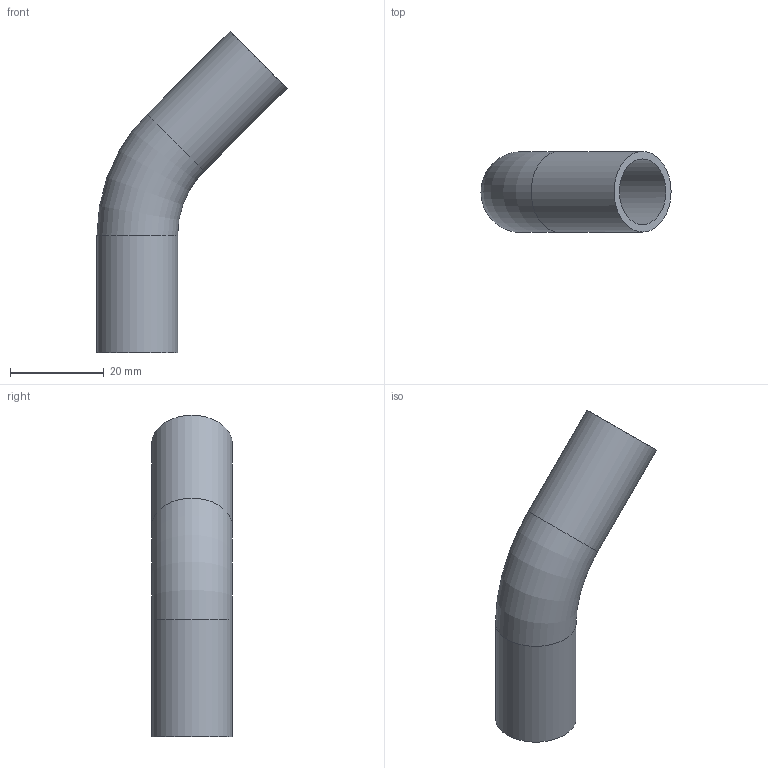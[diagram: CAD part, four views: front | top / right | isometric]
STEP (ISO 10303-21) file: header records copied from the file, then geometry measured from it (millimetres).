
FILE_DESCRIPTION(('Elbow 17,2x1,6_45 deg-Version 00'),'2;1');
FILE_NAME('E045_17,2x1,6_MR28_L36,6_00.stp','2013-09-04T12:24:44',(''),('DOCKWEILER AG'),'Autodesk Inventor 2012','Autodesk Inventor 2012','');
FILE_SCHEMA(('CONFIG_CONTROL_DESIGN'));
Length unit declared in the file: millimetre
Products named in the file (1): N0001_003_001
Bounding box: 40.56 x 17.2 x 68.56 mm (x, y, z)
Volume: 5645.4 mm3; surface area: 7213.6 mm2
Topology: 1 solids, 1 shells, 8 faces, 14 edges, 8 vertices
Faces by surface type: cylinder 4, torus 2, plane 2
Full cylindrical faces by diameter (mm): 14 x2, 17.2 x2
Entity records: 194 total; most frequent: DIRECTION 34, CARTESIAN_POINT 25, AXIS2_PLACEMENT_3D 17, ORIENTED_EDGE 16, EDGE_LOOP 16, VERTEX_POINT 8, CIRCLE 8, EDGE_CURVE 8
